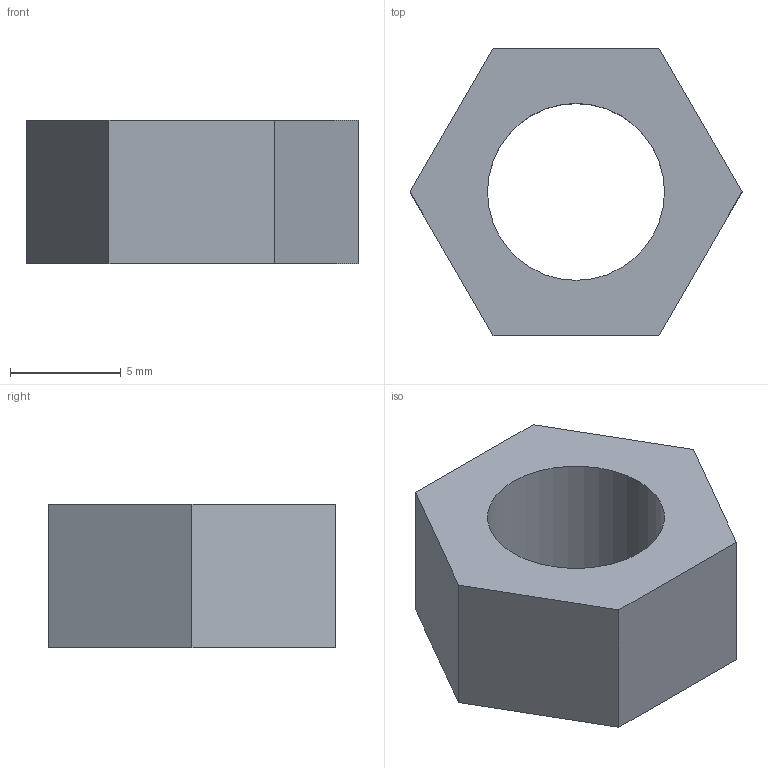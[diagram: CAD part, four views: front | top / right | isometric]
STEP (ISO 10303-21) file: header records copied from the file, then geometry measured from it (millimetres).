
FILE_DESCRIPTION(('BendCAD export'),'2;1');
FILE_NAME('bendcad.step','',('BendCAD'),('BendCAD'),'BendCAD','BendCAD','');
FILE_SCHEMA(('AUTOMOTIVE_DESIGN'));
Length unit declared in the file: millimetre
Products named in the file (1): BENDCAD
Bounding box: 15.01 x 13 x 6.5 mm (x, y, z)
Volume: 624.6 mm3; surface area: 648.3 mm2
Topology: 1 solids, 1 shells, 9 faces, 21 edges, 14 vertices
Faces by surface type: bspline 6, plane 2, cylinder 1
Full cylindrical faces by diameter (mm): 8 x1
Entity records: 344 total; most frequent: CARTESIAN_POINT 164, ORIENTED_EDGE 40, EDGE_CURVE 20, DIRECTION 18, VERTEX_POINT 14, B_SPLINE_CURVE_WITH_KNOTS 12, EDGE_LOOP 12, FACE_OUTER_BOUND 9
